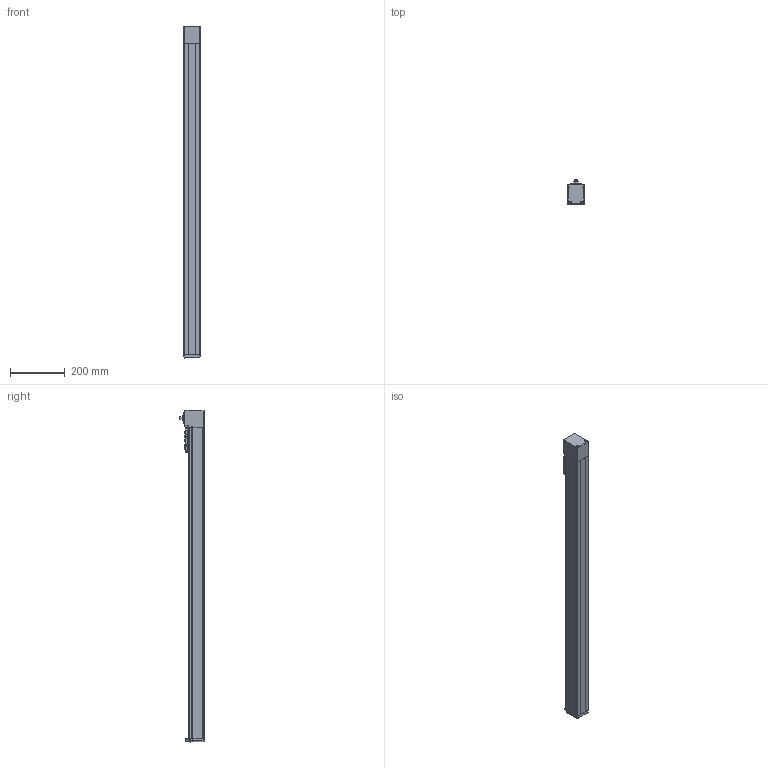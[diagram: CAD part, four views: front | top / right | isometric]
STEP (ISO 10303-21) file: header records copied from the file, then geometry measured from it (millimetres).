
FILE_DESCRIPTION(/* description */ ('STEP AP214'),/* implementation_level */ '2;1');
FILE_NAME(/* name */ 'MGTB 60 1000(0)',/* time_stamp */ '2023-04-17T13:41:06+02:00',/* author */ ('License CC BY-ND 4.0'),/* organization */ ('CADENAS'),/* preprocessor_version */ 'ST-DEVELOPER v19.3',/* originating_system */ 'PARTsolutions',/* authorisation */ ' ');
FILE_SCHEMA (('AUTOMOTIVE_DESIGN {1 0 10303 214 3 1 1}'));
Length unit declared in the file: millimetre
Products named in the file (6): MGTB 60 1000(0); MGTB 60 1000_protection_strip; MGTB 60_carriage; MGTB 60_end_block; MGTB 60 1000_profile; MGTB 60_drive_block
Assembly tree (5 placements, depth 2):
  MGTB 60 1000(0)
    MGTB 60 1000_protection_strip
    MGTB 60_carriage
    MGTB 60_end_block
    MGTB 60 1000_profile
    MGTB 60_drive_block
Bounding box: 60 x 92.5 x 1215.01 mm (x, y, z)
Volume: 4274952.7 mm3; surface area: 501006.9 mm2
Topology: 5 solids, 5 shells, 696 faces, 1771 edges, 1140 vertices
Faces by surface type: plane 351, cylinder 156, cone 94, bspline 68, torus 25, sphere 2
Full cylindrical faces by diameter (mm): 2 x1, 2.459 x4, 3.242 x6, 4 x12, 4.134 x8, 4.2 x2, 4.8 x2, 5 x2, 5.5 x4, 7 x6, 8 x4, 10 x1, 11 x3, 16 x1, 17 x1, 30 x1, 35 x1, 42 x2
Entity records: 25037 total; most frequent: CARTESIAN_POINT 4184, DIRECTION 3411, ORIENTED_EDGE 3232, EDGE_CURVE 1616, AXIS2_PLACEMENT_3D 1219, VERTEX_POINT 1120, LINE 973, VECTOR 973
